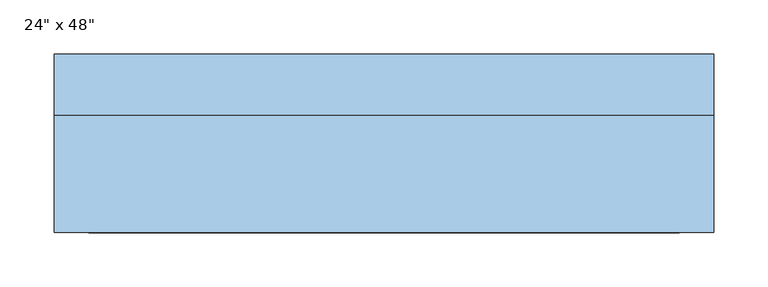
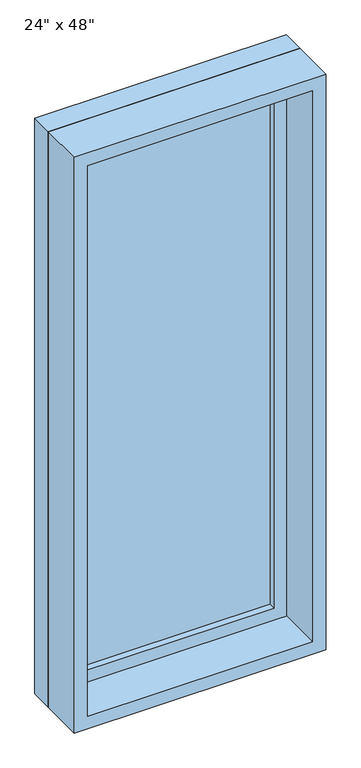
"""IFC4 building model written with IfcOpenShell, lengths in millimetres: window geometry."""

import ifcopenshell
import ifcopenshell.guid

model = None  # the IFC model being written
_history = None  # IfcOwnerHistory: only IFC2X3 demands one
_inside = {}  # id of a spatial element -> (the spatial element, [elements in it])
_under = {}  # id of a project, library or spatial element -> (it, [spatial elements below it])
_declared = {}  # id of a project -> (the project, [libraries it declares])
_typed = {}  # id of a type object -> (the type object, [elements of that type])
_made_of = {}  # id of a material, layer set ... -> (it, [elements and type objects made of it])


def new_model(schema):
    """Start an empty IFC model of exactly this schema.

    Asked for "IFC4X3", IfcOpenShell would pick the latest addendum, in which some entities
    have other attributes; the version numbers below select the first issue.
    IFC2X3 requires an IfcOwnerHistory on every rooted entity: one is made here for all.
    """
    global model, _history
    if schema == "IFC4X3":
        model = ifcopenshell.file(schema_version=(4, 3, 0, 0))
    else:
        model = ifcopenshell.file(schema=schema)
    _inside.clear()
    _under.clear()
    _declared.clear()
    _typed.clear()
    _made_of.clear()
    _history = None
    if model.schema == "IFC2X3":
        org = make("IfcOrganization", Name="unknown")
        user = make(
            "IfcPersonAndOrganization",
            ThePerson=make("IfcPerson", FamilyName="unknown"),
            TheOrganization=org,
        )
        app = make(
            "IfcApplication",
            ApplicationDeveloper=org,
            Version="unknown",
            ApplicationFullName="unknown",
            ApplicationIdentifier="unknown",
        )
        _history = make(
            "IfcOwnerHistory",
            OwningUser=user,
            OwningApplication=app,
            ChangeAction="ADDED",
            CreationDate=0,
        )
    return model


def make(cls, **values):
    """One entity of the class cls with the attributes given. An attribute that is None is left unset."""
    return model.create_entity(
        cls, **{name: value for name, value in values.items() if value is not None}
    )


def rooted(cls, **values):
    """An entity with a GlobalId (a new one), such as an element, a storey or a relation."""
    return make(cls, GlobalId=ifcopenshell.guid.new(), OwnerHistory=_history, **values)


def si_unit(unit_type, name, prefix=None):
    """IfcSIUnit, for example si_unit("LENGTHUNIT", "METRE", prefix="MILLI")."""
    return make("IfcSIUnit", UnitType=unit_type, Prefix=prefix, Name=name)


def assignment(units):
    """IfcUnitAssignment: the units of a project."""
    return None if units is None else make("IfcUnitAssignment", Units=units)


def point(xyz):
    """IfcCartesianPoint."""
    return None if xyz is None else make("IfcCartesianPoint", Coordinates=xyz)


def direction(xyz):
    """IfcDirection."""
    return None if xyz is None else make("IfcDirection", DirectionRatios=xyz)


def frame(location, z_axis=None, x_axis=None):
    """IfcAxis2Placement3D, a coordinate frame: its origin and axes. An axis left out is left unset."""
    return make(
        "IfcAxis2Placement3D",
        Location=point(location),
        Axis=direction(z_axis),
        RefDirection=direction(x_axis),
    )


def origin():
    """The frame at (0, 0, 0) with its axes left unset."""
    return frame((0.0, 0.0, 0.0))


def place(relative_to, where):
    """IfcLocalPlacement: puts the frame where relative to a parent placement (None: the world)."""
    return make(
        "IfcLocalPlacement", PlacementRelTo=relative_to, RelativePlacement=where
    )


def context(
    kind, dimensions, precision=None, world=None, true_north=None, identifier=None
):
    """IfcGeometricRepresentationContext, for example the 3D "Model" context."""
    return make(
        "IfcGeometricRepresentationContext",
        ContextIdentifier=identifier,
        ContextType=kind,
        CoordinateSpaceDimension=dimensions,
        Precision=precision,
        WorldCoordinateSystem=world,
        TrueNorth=true_north,
    )


def project(units=None, contexts=None):
    """IfcProject with its units and contexts."""
    return rooted(
        "IfcProject",
        Name="project",
        RepresentationContexts=contexts,
        UnitsInContext=assignment(units),
    )


def spatial(cls, under=None, at=None, **own):
    """A site, building, storey or space (cls), placed at a placement, below another one or the project."""
    s = rooted(cls, ObjectPlacement=at, **own)
    if under is not None:
        _under.setdefault(under.id(), (under, []))[1].append(s)
    return s


def polyline(points):
    """IfcPolyline through the points."""
    return make("IfcPolyline", Points=[point(p) for p in points])


def outline(outer, holes=None, kind="AREA"):
    """IfcArbitraryClosedProfileDef: a profile drawn as a closed curve; with holes, ...WithVoids."""
    if holes is None:
        return make("IfcArbitraryClosedProfileDef", ProfileType=kind, OuterCurve=outer)
    return make(
        "IfcArbitraryProfileDefWithVoids",
        ProfileType=kind,
        OuterCurve=outer,
        InnerCurves=holes,
    )


def extrude(swept, where, along, depth):
    """IfcExtrudedAreaSolid: the profile swept, set in the frame where, extruded along a direction by depth."""
    return make(
        "IfcExtrudedAreaSolid",
        SweptArea=swept,
        Position=where,
        ExtrudedDirection=direction(along),
        Depth=depth,
    )


def shape(context_of_items, identifier, shape_type, items):
    """IfcShapeRepresentation: the items that make up one representation, for example the "Body"."""
    return make(
        "IfcShapeRepresentation",
        ContextOfItems=context_of_items,
        RepresentationIdentifier=identifier,
        RepresentationType=shape_type,
        Items=items,
    )


def source(mapping_origin, context_of_items, identifier, shape_type, items):
    """IfcRepresentationMap: a shape defined once, which mapped items show again and again."""
    return make(
        "IfcRepresentationMap",
        MappingOrigin=mapping_origin,
        MappedRepresentation=shape(context_of_items, identifier, shape_type, items),
    )


def transform(
    local_origin,
    x_axis=None,
    y_axis=None,
    z_axis=None,
    scale=None,
    scale2=None,
    scale3=None,
    uniform=True,
):
    """IfcCartesianTransformationOperator3D, or its non-uniform kind. x_axis, y_axis, z_axis: its Axis1, 2, 3."""
    if uniform:
        return make(
            "IfcCartesianTransformationOperator3D",
            Axis1=direction(x_axis),
            Axis2=direction(y_axis),
            LocalOrigin=point(local_origin),
            Scale=scale,
            Axis3=direction(z_axis),
        )
    return make(
        "IfcCartesianTransformationOperator3DnonUniform",
        Axis1=direction(x_axis),
        Axis2=direction(y_axis),
        LocalOrigin=point(local_origin),
        Scale=scale,
        Axis3=direction(z_axis),
        Scale2=scale2,
        Scale3=scale3,
    )


def mapped(mapping_source, mapping_target):
    """IfcMappedItem: shows the shape of a source again, moved by a transform."""
    return make(
        "IfcMappedItem", MappingSource=mapping_source, MappingTarget=mapping_target
    )


def made_of(thing, what):
    """Note that an element or type object is made of a material, layer set ...; save() writes the relation."""
    if what is not None:
        _made_of.setdefault(what.id(), (what, []))[1].append(thing)
    return thing


def element(
    cls,
    number,
    at=None,
    inside=None,
    cuts=None,
    type_object=None,
    material=None,
    context=None,
    identifier="Body",
    shape_type=None,
    held_by="IfcProductDefinitionShape",
    body=None,
    shapes=None,
    **own,
):
    """One element of the class cls, such as IfcWall. Its Tag is "e" and its number.

    at: its placement. inside: the storey or other place that contains it. cuts: it is an
    opening in that element (IfcRelVoidsElement). A single representation is given by context,
    identifier, shape_type and body (its items); several are given by shapes. held_by: the class
    of the entity that holds the representations. save() writes the other relations.
    """
    e = rooted(cls, Tag="e%d" % number, ObjectPlacement=at, **own)
    if body is not None:
        shapes = [shape(context, identifier, shape_type, body)]
    if shapes is not None:
        e.Representation = make(held_by, Representations=shapes)
    if inside is not None:
        _inside.setdefault(inside.id(), (inside, []))[1].append(e)
    if cuts is not None:
        rooted(
            "IfcRelVoidsElement", RelatingBuildingElement=cuts, RelatedOpeningElement=e
        )
    if type_object is not None:
        _typed.setdefault(type_object.id(), (type_object, []))[1].append(e)
    return made_of(e, material)


def aggregate(whole, parts):
    """IfcRelAggregates: a whole, such as a stair, and the parts it consists of."""
    return rooted("IfcRelAggregates", RelatingObject=whole, RelatedObjects=parts)


def save(model, path):
    """Write the relations noted so far, then the file.

    IfcRelAggregates (storeys below a building ...), IfcRelContainedInSpatialStructure (elements
    in a storey), IfcRelDefinesByType, IfcRelAssociatesMaterial and IfcRelDeclares: one each for
    every whole, place, type object, material and project.
    """
    for whole, parts in _under.values():
        aggregate(whole, parts)
    for where, things in _inside.values():
        rooted(
            "IfcRelContainedInSpatialStructure",
            RelatedElements=things,
            RelatingStructure=where,
        )
    for kind, things in _typed.values():
        rooted("IfcRelDefinesByType", RelatedObjects=things, RelatingType=kind)
    for what, things in _made_of.values():
        rooted("IfcRelAssociatesMaterial", RelatedObjects=things, RelatingMaterial=what)
    for by, libraries in _declared.values():
        rooted("IfcRelDeclares", RelatingContext=by, RelatedDefinitions=libraries)
    model.write(path)


def window_ec410c0c(model_context):
    return source(origin(), model_context, "Body", "SweptSolid", [
        extrude(outline(polyline([(2368.6, -285.8), (933.4, -285.8), (933.4, 285.8), (2368.6, 285.8), (2368.6, -285.8)]), holes=[polyline([(2324.6, -241.8), (2324.6, 241.8), (977.4, 241.8), (977.4, -241.8), (2324.6, -241.8)])]), frame((0.0, 38.85, 0.0), z_axis=(0.0, 1.0, 0.0), x_axis=(0.0, 0.0, 1.0)), (0.0, 0.0, 1.0), 44.0),
        extrude(outline(polyline([(2387.6, -304.8), (914.4, -304.8), (914.4, 304.8), (2387.6, 304.8), (2387.6, -304.8)]), holes=[polyline([(2368.6, -285.8), (2368.6, 285.8), (933.4, 285.8), (933.4, -285.8), (2368.6, -285.8)])]), frame((0.0, 38.85, 0.0), z_axis=(0.0, 1.0, 0.0), x_axis=(0.0, 0.0, 1.0)), (0.0, 0.0, 1.0), 56.7),
        extrude(outline(polyline([(2387.6, -304.8), (914.4, -304.8), (914.4, 304.8), (2387.6, 304.8), (2387.6, -304.8)]), holes=[polyline([(2355.6, -272.8), (2355.6, 272.8), (946.4, 272.8), (946.4, -272.8), (2355.6, -272.8)])]), frame((0.0, -69.55, 0.0), z_axis=(0.0, 1.0, 0.0), x_axis=(0.0, 0.0, 1.0)), (0.0, 0.0, 1.0), 108.4),
        extrude(outline(polyline([(-241.8, 66.85), (241.8, 66.85), (241.8, 54.85), (-241.8, 54.85), (-241.8, 66.85)])), frame((0.0, 0.0, 977.4), z_axis=(0.0, 0.0, 1.0), x_axis=(1.0, 0.0, 0.0)), (0.0, 0.0, 1.0), 1347.2),
    ])


if __name__ == "__main__":
    model = new_model("IFC4")
    model_context = context("Model", 3, world=origin())
    ifc_project = project(units=[si_unit("LENGTHUNIT", "METRE", prefix="MILLI")], contexts=[model_context])
    site = spatial("IfcSite", under=ifc_project)
    building = spatial("IfcBuilding", under=site)
    placement = place(None, origin())
    window_shape = window_ec410c0c(model_context)
    element("IfcWindow", 1, ObjectType="Planitar-Fixed : 24\" x 48\"", at=placement, inside=building, context=model_context, shape_type="MappedRepresentation", body=[
        mapped(window_shape, transform((0.0, 0.0, 0.0), x_axis=(1.0, 0.0, 0.0), y_axis=(0.0, 1.0, 0.0), z_axis=(0.0, 0.0, 1.0))),
    ])
    save(model, "model.ifc")
